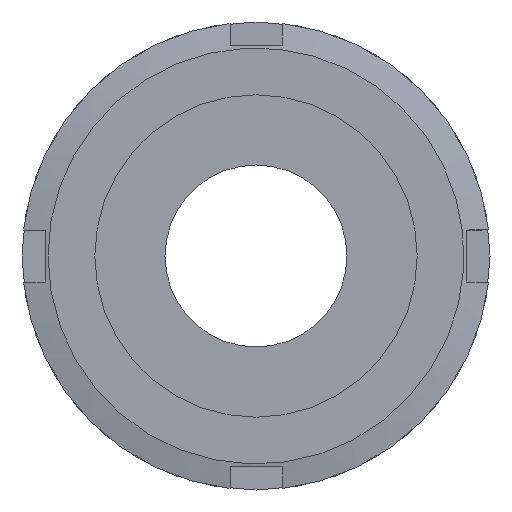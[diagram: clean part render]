
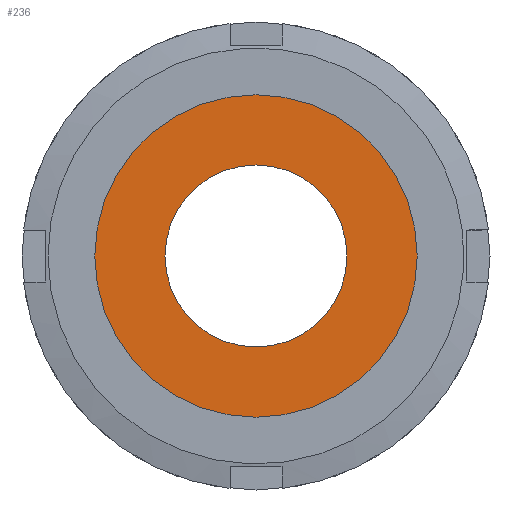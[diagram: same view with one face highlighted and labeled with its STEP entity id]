
A CAD part, left-side view. The second image highlights one B-rep face of the part: STEP entity #236.
In plain terms, the highlighted planar face has unit normal (-1, 0, 0) as drawn and (0, -1, 0) by its records, which use the part's own axes.
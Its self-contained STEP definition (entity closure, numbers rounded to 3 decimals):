
#236 = ADVANCED_FACE( '', ( #342, #343 ), #344, .T. );
#342 = FACE_OUTER_BOUND( '', #497, .T. );
#343 = FACE_BOUND( '', #498, .T. );
#344 = PLANE( '', #499 );
#497 = EDGE_LOOP( '', ( #795 ) );
#498 = EDGE_LOOP( '', ( #796 ) );
#499 = AXIS2_PLACEMENT_3D( '', #797, #798, #799 );
#795 = ORIENTED_EDGE( '', *, *, #1079, .T. );
#796 = ORIENTED_EDGE( '', *, *, #1080, .F. );
#797 = CARTESIAN_POINT( '', ( 8.75, 0., 0. ) );
#798 = DIRECTION( '', ( 0., -1., 0. ) );
#799 = DIRECTION( '', ( 0., 0., -1. ) );
#1079 = EDGE_CURVE( '', #1252, #1252, #1253, .T. );
#1080 = EDGE_CURVE( '', #1254, #1254, #1255, .T. );
#1252 = VERTEX_POINT( '', #1616 );
#1253 = CIRCLE( '', #1617, 15.5 );
#1254 = VERTEX_POINT( '', #1618 );
#1255 = CIRCLE( '', #1619, 8.75 );
#1616 = CARTESIAN_POINT( '', ( 0., 0., -15.5 ) );
#1617 = AXIS2_PLACEMENT_3D( '', #1863, #1864, #1865 );
#1618 = CARTESIAN_POINT( '', ( 0., 0., -8.75 ) );
#1619 = AXIS2_PLACEMENT_3D( '', #1866, #1867, #1868 );
#1863 = CARTESIAN_POINT( '', ( 0., 0., 0. ) );
#1864 = DIRECTION( '', ( 0., -1., 0. ) );
#1865 = DIRECTION( '', ( 0., 0., -1. ) );
#1866 = CARTESIAN_POINT( '', ( 0., 0., 0. ) );
#1867 = DIRECTION( '', ( 0., -1., 0. ) );
#1868 = DIRECTION( '', ( 0., 0., -1. ) );
